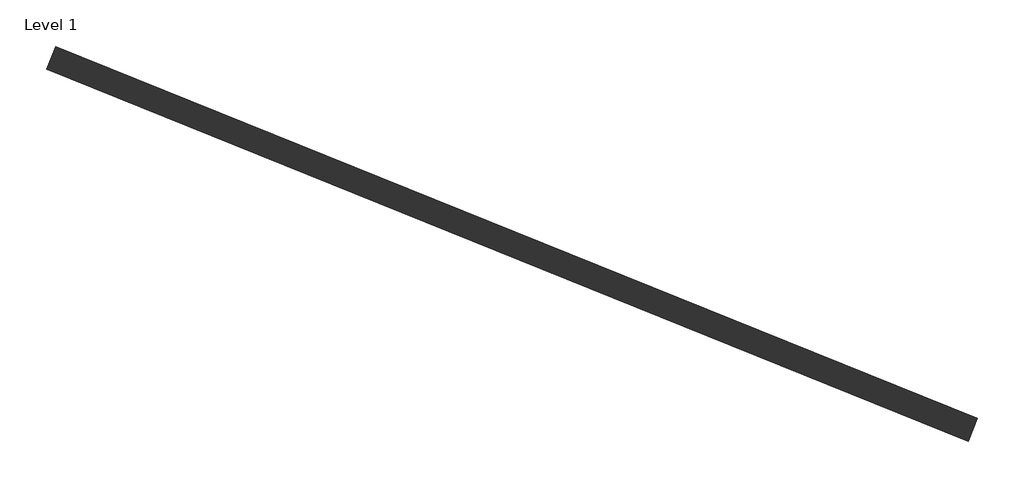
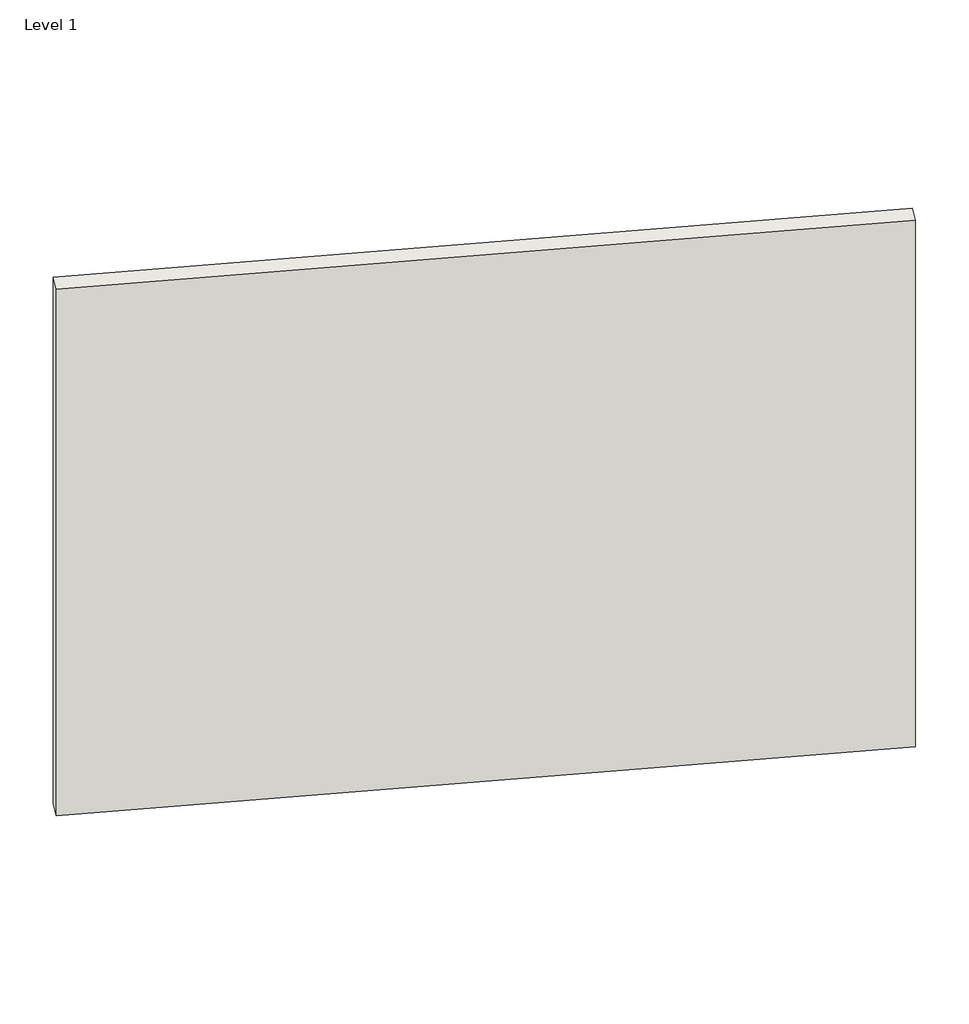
# One storey: 1 wall.
"""IFC4 building model written with IfcOpenShell, lengths in millimetres."""

from ifc_helpers import new_model, si_unit, origin, origin_with_axes, place, context, project, spatial, polyline, outline, extrude, element, save

model = new_model("IFC4")

# Units and contexts
model_context = context("Model", 3, world=origin())
ifc_project = project(units=[si_unit("LENGTHUNIT", "METRE", prefix="MILLI")], contexts=[model_context])

# Site, building, storey
site = spatial("IfcSite", under=ifc_project)
building = spatial("IfcBuilding", under=site)
storey = spatial("IfcBuildingStorey", under=building, Name="Level 1", Elevation=0.0)

# Wall
placement = place(None, origin())
element("IfcWall", 1, ObjectType="Wall 1", at=placement, inside=storey, context=model_context, shape_type="SweptSolid", body=[
    extrude(outline(polyline([(9300.3187523, -1644.776114), (1669.9665028, 1438.0863072), (1746.0865626, 1626.4900664), (9376.4388121, -1456.3723548), (9300.3187523, -1644.776114)])), origin_with_axes(), (0.0, 0.0, 1.0), 6096.0),
])

save(model, "model.ifc")
